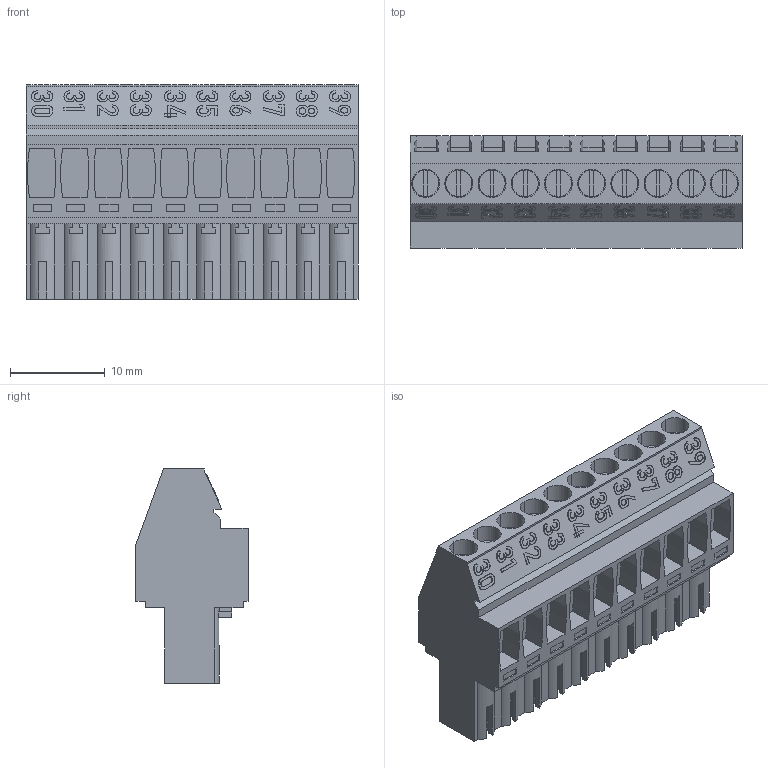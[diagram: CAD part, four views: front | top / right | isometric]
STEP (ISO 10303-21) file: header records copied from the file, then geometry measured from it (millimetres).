
FILE_DESCRIPTION(('FreeCAD Model'),'2;1');
FILE_NAME('V:/SBC/3D/_____440550550/SBC_STEP_ACC_440550550_Plug-10p-180-label-39-30_2021-08-05.step','2021-08-07T16:03:54',( 'Author'),(''),'Open CASCADE STEP processor 7.3','FreeCAD','Unknown' );
FILE_SCHEMA(('AUTOMOTIVE_DESIGN { 1 0 10303 214 1 1 1 1 }'));
Products named in the file (11): Body-Black_10pol; Text_037; Text_039; Text_038; Text_034; Text_033; Text_032; Text_031; Text_030; Text_036; Text_035
Bounding box: 35 x 11.83 x 22.6 mm (x, y, z)
Volume: 5387 mm3; surface area: 4263.3 mm2
Topology: 32 solids, 32 shells, 1262 faces, 6727 edges, 15197 vertices
Faces by surface type: plane 722, extrusion 460, cylinder 80
Entity records: 129600 total; most frequent: CARTESIAN_POINT 35720, DIRECTION 14458, VECTOR 11222, LINE 10762, ORIENTED_EDGE 7038, PCURVE 7034, DEFINITIONAL_REPRESENTATION 7034, EDGE_CURVE 3517
